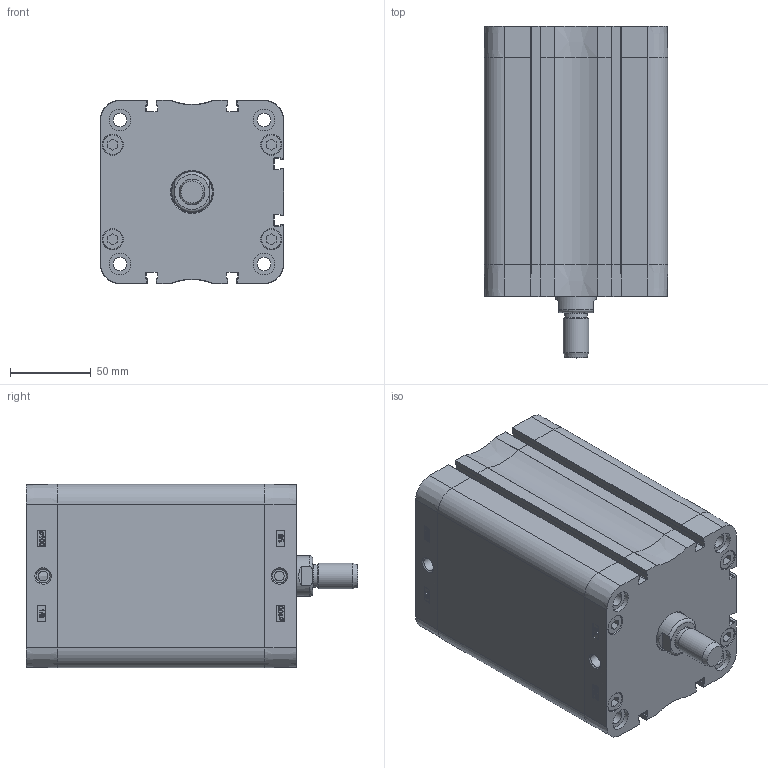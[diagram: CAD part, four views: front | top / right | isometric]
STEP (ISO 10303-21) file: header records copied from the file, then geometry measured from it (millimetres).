
FILE_DESCRIPTION((''),'2;1');
FILE_NAME('T:\Archivio Inventor\- CATALOGHI 2012\SERIE P - NUOVA\PDM\PDM100\PDM100.---.GS.M\PDM100.100.GS.M.stp','2013-02-05T11:44:10',('Administrator'),(''),'Autodesk Inventor 2012','Autodesk Inventor 2012','');
FILE_SCHEMA(('CONFIG_CONTROL_DESIGN'));
Length unit declared in the file: millimetre
Products named in the file (1): PDM100.100.GS.M
Bounding box: 113.3 x 205 x 113.3 mm (x, y, z)
Volume: 833723.1 mm3; surface area: 242487.6 mm2
Topology: 1 solids, 5 shells, 908 faces, 2136 edges, 1312 vertices
Faces by surface type: plane 371, bspline 226, cylinder 148, cone 81, torus 58, sphere 24
Full cylindrical faces by diameter (mm): 6 x2, 8.3 x4, 8.376 x8, 8.566 x2, 9.976 x4, 12 x1, 12.7 x8, 13.1 x8, 13.5 x8, 14 x1, 16 x1, 25 x1, 25.5 x1, 100 x1, 103.5 x1, 103.7 x1
Entity records: 29561 total; most frequent: CARTESIAN_POINT 9693, ORIENTED_EDGE 4030, DIRECTION 3400, EDGE_CURVE 2015, VERTEX_POINT 1291, AXIS2_PLACEMENT_3D 1208, EDGE_LOOP 1088, VECTOR 984
